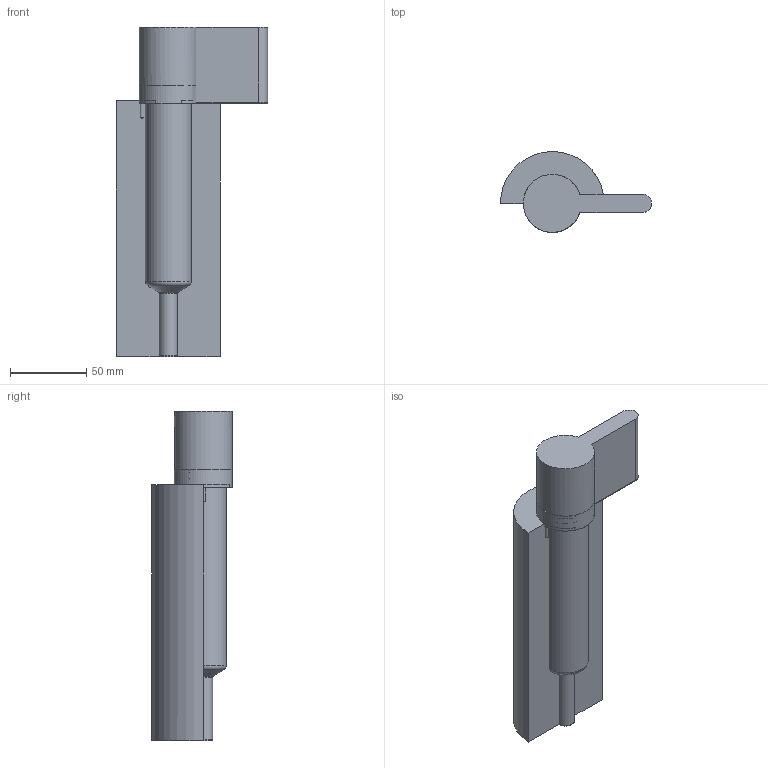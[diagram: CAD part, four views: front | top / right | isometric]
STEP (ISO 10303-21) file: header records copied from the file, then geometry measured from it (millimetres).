
FILE_DESCRIPTION(/* description */ (''),/* implementation_level */ '2;1');
FILE_NAME(/* name */ 'BXTSL-BXISL-BXOSL16130_200C_c',/* time_stamp */ '2017-09-29T13:21:39+13:00',/* author */ (''),/* organization */ (''),/* preprocessor_version */ 'ST-DEVELOPER v9',/* originating_system */ 'UGS - NX 4.0',/* authorisation */ '');
FILE_SCHEMA (('AUTOMOTIVE_DESIGN { 1 0 10303 214 1 1 1 1 }'));
Length unit declared in the file: millimetre
Products named in the file (1): BXTSL-BXISL-BXOSL16130_200C_c
Bounding box: 99 x 53 x 215.64 mm (x, y, z)
Volume: 523189.1 mm3; surface area: 81557.9 mm2
Topology: 10 solids, 10 shells, 99 faces, 231 edges, 151 vertices
Faces by surface type: plane 41, cylinder 30, cone 11, torus 10, sphere 6, bspline 1
Full cylindrical faces by diameter (mm): 1 x3, 2.5 x2, 7 x1, 11.61 x1, 12.01 x2, 14.8 x1, 25.4 x1, 30 x1, 38 x1
Entity records: 2791 total; most frequent: CARTESIAN_POINT 653, DIRECTION 448, ORIENTED_EDGE 350, AXIS2_PLACEMENT_3D 188, EDGE_CURVE 175, VERTEX_POINT 135, EDGE_LOOP 133, ADVANCED_FACE 99
